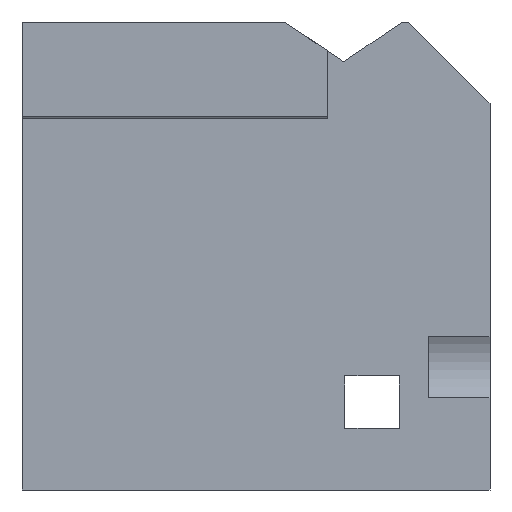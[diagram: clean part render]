
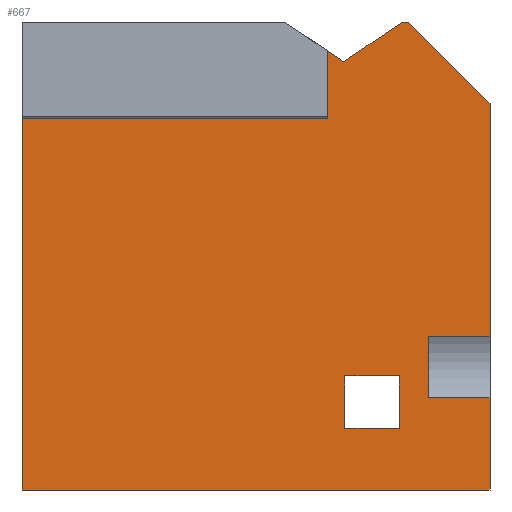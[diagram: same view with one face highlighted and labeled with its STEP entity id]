
A CAD part, left-side view. The second image highlights one B-rep face of the part: STEP entity #667.
In plain terms, the highlighted planar face has unit normal (-1, 0, 0).
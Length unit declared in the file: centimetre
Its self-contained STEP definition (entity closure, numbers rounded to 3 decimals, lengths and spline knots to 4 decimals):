
#5 = VECTOR ( 'NONE', #159, 100. ) ;
#9 = EDGE_LOOP ( 'NONE', ( #137, #353, #1084, #1078, #1095, #562, #877, #275, #731, #549, #1109, #304, #325 ) ) ;
#48 = VECTOR ( 'NONE', #248, 100. ) ;
#49 = LINE ( 'NONE', #622, #955 ) ;
#75 = DIRECTION ( 'NONE',  ( 0., 0., -1. ) ) ;
#78 = EDGE_CURVE ( 'NONE', #1195, #88, #373, .T. ) ;
#88 = VERTEX_POINT ( 'NONE', #190 ) ;
#95 = VECTOR ( 'NONE', #282, 100. ) ;
#102 = LINE ( 'NONE', #1140, #95 ) ;
#107 = EDGE_CURVE ( 'NONE', #867, #1157, #1147, .T. ) ;
#115 = AXIS2_PLACEMENT_3D ( 'NONE', #193, #953, #850 ) ;
#126 = VECTOR ( 'NONE', #258, 100. ) ;
#133 = ORIENTED_EDGE ( 'NONE', *, *, #267, .T. ) ;
#137 = ORIENTED_EDGE ( 'NONE', *, *, #1148, .F. ) ;
#159 = DIRECTION ( 'NONE',  ( 0., -0.829, 0.559 ) ) ;
#160 = CARTESIAN_POINT ( 'NONE',  ( 0., 186.9396, 1000. ) ) ;
#166 = CARTESIAN_POINT ( 'NONE',  ( 0., 348.0882, 793.0769 ) ) ;
#167 = CARTESIAN_POINT ( 'NONE',  ( 0., 131.6194, 197.2718 ) ) ;
#172 = VECTOR ( 'NONE', #344, 100. ) ;
#190 = CARTESIAN_POINT ( 'NONE',  ( 0., 0., 0. ) ) ;
#193 = CARTESIAN_POINT ( 'NONE',  ( 0., 1000., 1000. ) ) ;
#204 = ORIENTED_EDGE ( 'NONE', *, *, #439, .T. ) ;
#207 = CARTESIAN_POINT ( 'NONE',  ( 0., 312.8527, 915.077 ) ) ;
#211 = EDGE_CURVE ( 'NONE', #611, #1195, #49, .T. ) ;
#216 = DIRECTION ( 'NONE',  ( 0., 0., -1. ) ) ;
#248 = DIRECTION ( 'NONE',  ( 0., 0.707, 0.707 ) ) ;
#249 = DIRECTION ( 'NONE',  ( 0., -1., 0. ) ) ;
#258 = DIRECTION ( 'NONE',  ( 0., 0., 1. ) ) ;
#261 = CARTESIAN_POINT ( 'NONE',  ( 0., 193.4329, 243.7848 ) ) ;
#267 = EDGE_CURVE ( 'NONE', #607, #1228, #555, .T. ) ;
#275 = ORIENTED_EDGE ( 'NONE', *, *, #107, .F. ) ;
#278 = EDGE_CURVE ( 'NONE', #837, #607, #632, .T. ) ;
#282 = DIRECTION ( 'NONE',  ( 0., 1., 0. ) ) ;
#283 = DIRECTION ( 'NONE',  ( 0., 1., 0. ) ) ;
#287 = VERTEX_POINT ( 'NONE', #1011 ) ;
#304 = ORIENTED_EDGE ( 'NONE', *, *, #1198, .F. ) ;
#312 = VERTEX_POINT ( 'NONE', #1222 ) ;
#320 = DIRECTION ( 'NONE',  ( 0., 0., -1. ) ) ;
#325 = ORIENTED_EDGE ( 'NONE', *, *, #973, .F. ) ;
#344 = DIRECTION ( 'NONE',  ( 0., -0.829, -0.559 ) ) ;
#351 = CARTESIAN_POINT ( 'NONE',  ( 0., 0., 826.5445 ) ) ;
#353 = ORIENTED_EDGE ( 'NONE', *, *, #481, .T. ) ;
#365 = VERTEX_POINT ( 'NONE', #351 ) ;
#373 = LINE ( 'NONE', #764, #1234 ) ;
#378 = LINE ( 'NONE', #767, #496 ) ;
#383 = PLANE ( 'NONE',  #115 ) ;
#392 = VECTOR ( 'NONE', #829, 100. ) ;
#427 = LINE ( 'NONE', #1100, #172 ) ;
#436 = VECTOR ( 'NONE', #851, 100. ) ;
#439 = EDGE_CURVE ( 'NONE', #1228, #849, #102, .T. ) ;
#475 = FACE_BOUND ( 'NONE', #1117, .T. ) ;
#481 = EDGE_CURVE ( 'NONE', #670, #611, #782, .T. ) ;
#489 = VERTEX_POINT ( 'NONE', #700 ) ;
#495 = LINE ( 'NONE', #1187, #559 ) ;
#496 = VECTOR ( 'NONE', #75, 100. ) ;
#501 = VERTEX_POINT ( 'NONE', #207 ) ;
#506 = CARTESIAN_POINT ( 'NONE',  ( 0., 310.1235, 131.4816 ) ) ;
#534 = LINE ( 'NONE', #1207, #392 ) ;
#541 = CARTESIAN_POINT ( 'NONE',  ( 0., 173.4555, 1000. ) ) ;
#545 = LINE ( 'NONE', #1010, #1133 ) ;
#549 = ORIENTED_EDGE ( 'NONE', *, *, #902, .T. ) ;
#552 = ORIENTED_EDGE ( 'NONE', *, *, #911, .T. ) ;
#554 = CARTESIAN_POINT ( 'NONE',  ( 0., 193.4329, 243.7848 ) ) ;
#555 = LINE ( 'NONE', #1022, #436 ) ;
#559 = VECTOR ( 'NONE', #216, 100. ) ;
#562 = ORIENTED_EDGE ( 'NONE', *, *, #944, .F. ) ;
#582 = VECTOR ( 'NONE', #880, 100. ) ;
#596 = CARTESIAN_POINT ( 'NONE',  ( 0., 173.4555, 1000. ) ) ;
#607 = VERTEX_POINT ( 'NONE', #554 ) ;
#611 = VERTEX_POINT ( 'NONE', #842 ) ;
#613 = CARTESIAN_POINT ( 'NONE',  ( 0., 0., 327.8696 ) ) ;
#622 = CARTESIAN_POINT ( 'NONE',  ( 0., 1000., 1000. ) ) ;
#630 = CARTESIAN_POINT ( 'NONE',  ( 0., 186.9396, 1000. ) ) ;
#632 = LINE ( 'NONE', #261, #1058 ) ;
#643 = DIRECTION ( 'NONE',  ( 0., 0., 1. ) ) ;
#648 = LINE ( 'NONE', #167, #1009 ) ;
#667 = ADVANCED_FACE ( 'NONE', ( #475, #1055 ), #383, .F. ) ;
#670 = VERTEX_POINT ( 'NONE', #1239 ) ;
#676 = VECTOR ( 'NONE', #643, 100. ) ;
#683 = EDGE_CURVE ( 'NONE', #365, #867, #378, .T. ) ;
#700 = CARTESIAN_POINT ( 'NONE',  ( 0., 131.6194, 197.2718 ) ) ;
#731 = ORIENTED_EDGE ( 'NONE', *, *, #683, .F. ) ;
#745 = CARTESIAN_POINT ( 'NONE',  ( 0., 1000., 0. ) ) ;
#761 = EDGE_CURVE ( 'NONE', #287, #88, #495, .T. ) ;
#764 = CARTESIAN_POINT ( 'NONE',  ( 0., 1000., 0. ) ) ;
#767 = CARTESIAN_POINT ( 'NONE',  ( 0., 0., 1000. ) ) ;
#782 = LINE ( 'NONE', #1064, #582 ) ;
#817 = LINE ( 'NONE', #166, #126 ) ;
#821 = VERTEX_POINT ( 'NONE', #596 ) ;
#823 = CARTESIAN_POINT ( 'NONE',  ( 0., 131.6194, 327.8696 ) ) ;
#829 = DIRECTION ( 'NONE',  ( 0., -1., 0. ) ) ;
#834 = LINE ( 'NONE', #541, #48 ) ;
#837 = VERTEX_POINT ( 'NONE', #884 ) ;
#842 = CARTESIAN_POINT ( 'NONE',  ( 0., 1000., 793.0769 ) ) ;
#849 = VERTEX_POINT ( 'NONE', #506 ) ;
#850 = DIRECTION ( 'NONE',  ( 0., 0., -1. ) ) ;
#851 = DIRECTION ( 'NONE',  ( 0., 0., -1. ) ) ;
#865 = CARTESIAN_POINT ( 'NONE',  ( 0., 0., 327.8696 ) ) ;
#867 = VERTEX_POINT ( 'NONE', #613 ) ;
#877 = ORIENTED_EDGE ( 'NONE', *, *, #1101, .F. ) ;
#880 = DIRECTION ( 'NONE',  ( 0., 1., 0. ) ) ;
#884 = CARTESIAN_POINT ( 'NONE',  ( 0., 310.1235, 243.7848 ) ) ;
#900 = ORIENTED_EDGE ( 'NONE', *, *, #278, .T. ) ;
#902 = EDGE_CURVE ( 'NONE', #365, #821, #834, .T. ) ;
#911 = EDGE_CURVE ( 'NONE', #849, #837, #1003, .T. ) ;
#918 = EDGE_CURVE ( 'NONE', #1014, #821, #545, .T. ) ;
#940 = DIRECTION ( 'NONE',  ( 0., 0., -1. ) ) ;
#944 = EDGE_CURVE ( 'NONE', #489, #287, #534, .T. ) ;
#953 = DIRECTION ( 'NONE',  ( 1., 0., 0. ) ) ;
#955 = VECTOR ( 'NONE', #320, 100. ) ;
#973 = EDGE_CURVE ( 'NONE', #312, #501, #427, .T. ) ;
#998 = CARTESIAN_POINT ( 'NONE',  ( 0., 310.1235, 131.4816 ) ) ;
#1003 = LINE ( 'NONE', #998, #676 ) ;
#1009 = VECTOR ( 'NONE', #940, 100. ) ;
#1010 = CARTESIAN_POINT ( 'NONE',  ( 0., 1000., 1000. ) ) ;
#1011 = CARTESIAN_POINT ( 'NONE',  ( 0., 0., 197.2718 ) ) ;
#1014 = VERTEX_POINT ( 'NONE', #160 ) ;
#1022 = CARTESIAN_POINT ( 'NONE',  ( 0., 193.4329, 131.4816 ) ) ;
#1032 = LINE ( 'NONE', #630, #5 ) ;
#1051 = DIRECTION ( 'NONE',  ( 0., -1., 0. ) ) ;
#1055 = FACE_OUTER_BOUND ( 'NONE', #9, .T. ) ;
#1058 = VECTOR ( 'NONE', #249, 100. ) ;
#1064 = CARTESIAN_POINT ( 'NONE',  ( 0., 348.0882, 793.0769 ) ) ;
#1078 = ORIENTED_EDGE ( 'NONE', *, *, #78, .T. ) ;
#1084 = ORIENTED_EDGE ( 'NONE', *, *, #211, .T. ) ;
#1094 = VECTOR ( 'NONE', #283, 100. ) ;
#1095 = ORIENTED_EDGE ( 'NONE', *, *, #761, .F. ) ;
#1100 = CARTESIAN_POINT ( 'NONE',  ( 0., 312.8527, 915.077 ) ) ;
#1101 = EDGE_CURVE ( 'NONE', #1157, #489, #648, .T. ) ;
#1105 = CARTESIAN_POINT ( 'NONE',  ( 0., 193.4329, 131.4816 ) ) ;
#1109 = ORIENTED_EDGE ( 'NONE', *, *, #918, .F. ) ;
#1117 = EDGE_LOOP ( 'NONE', ( #133, #204, #552, #900 ) ) ;
#1133 = VECTOR ( 'NONE', #1193, 100. ) ;
#1140 = CARTESIAN_POINT ( 'NONE',  ( 0., 193.4329, 131.4816 ) ) ;
#1147 = LINE ( 'NONE', #865, #1094 ) ;
#1148 = EDGE_CURVE ( 'NONE', #670, #312, #817, .T. ) ;
#1157 = VERTEX_POINT ( 'NONE', #823 ) ;
#1187 = CARTESIAN_POINT ( 'NONE',  ( 0., 0., 1000. ) ) ;
#1193 = DIRECTION ( 'NONE',  ( 0., -1., 0. ) ) ;
#1195 = VERTEX_POINT ( 'NONE', #745 ) ;
#1198 = EDGE_CURVE ( 'NONE', #501, #1014, #1032, .T. ) ;
#1207 = CARTESIAN_POINT ( 'NONE',  ( 0., 0., 197.2718 ) ) ;
#1222 = CARTESIAN_POINT ( 'NONE',  ( 0., 348.0882, 938.8418 ) ) ;
#1228 = VERTEX_POINT ( 'NONE', #1105 ) ;
#1234 = VECTOR ( 'NONE', #1051, 100. ) ;
#1239 = CARTESIAN_POINT ( 'NONE',  ( 0., 348.0882, 793.0769 ) ) ;
